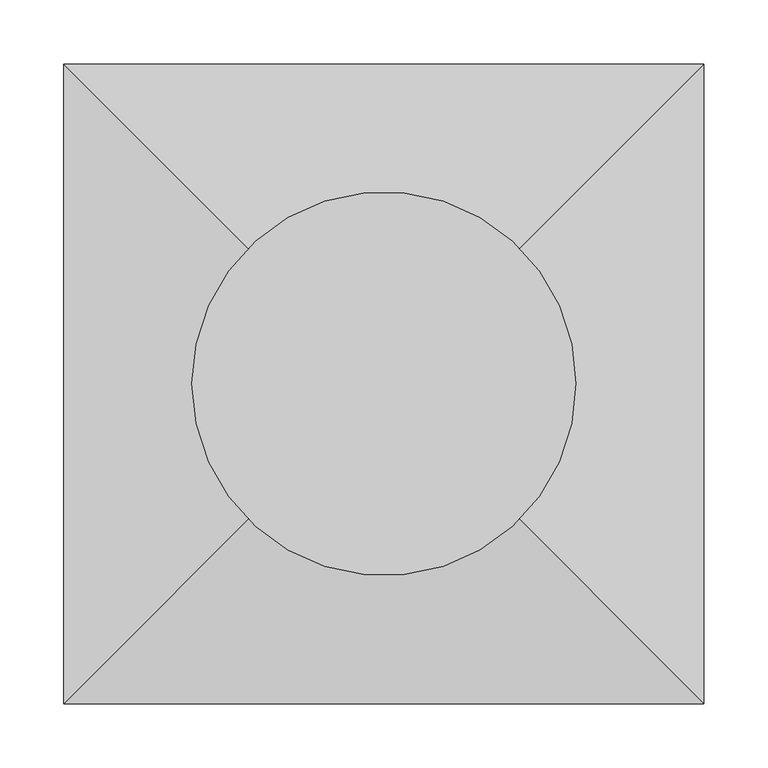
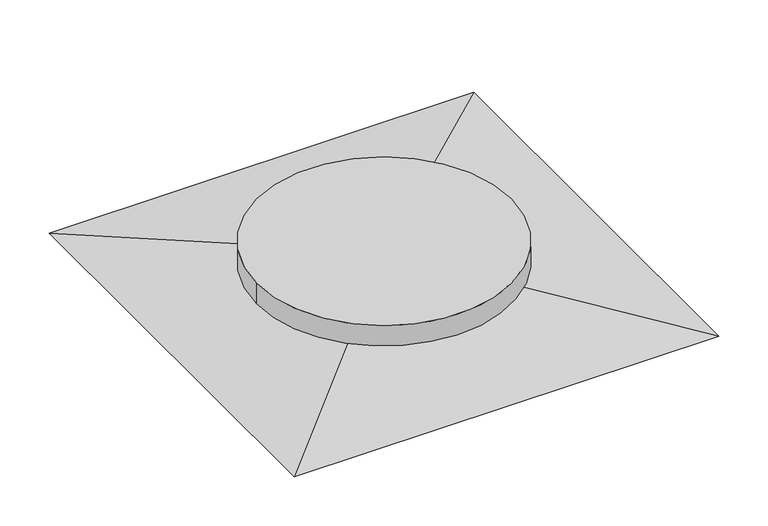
"""IFC4 building model written with IfcOpenShell, lengths in millimetres: air terminal geometry, M_送风散流器 - 矩形面圆颈 : 500x500 - 300 颈."""

from ifc_helpers import new_model, si_unit, point, frame, origin, origin_2d, place, context, project, spatial, circle_curve, trimmed, segment, composite_curve, outline, extrude, faceted_brep, source, transform, mapped, element, save


def air_terminal_962bfd54(model_context):
    return source(origin(), model_context, "Body", "SolidModel", [
        extrude(outline(composite_curve([segment(trimmed(circle_curve(origin_2d(), 150.0), [point((-150.0, 0.0))], [point((150.0, 0.0))], False, "CARTESIAN"), True, "CONTINUOUS"), segment(trimmed(circle_curve(origin_2d(), 150.0), [point((150.0, 0.0))], [point((-150.0, 0.0))], False, "CARTESIAN"), True, "CONTINUOUS")], self_intersect=False)), frame((0.0, 0.0, 28.575), z_axis=(0.0, 0.0, 1.0), x_axis=(1.0, 0.0, 0.0)), (0.0, 0.0, 1.0), 25.4),
        faceted_brep([(75.0, 75.0, 28.575), (-75.0, 75.0, 28.575), (-75.0, -75.0, 28.575), (75.0, -75.0, 28.575), (250.0, 250.0, 0.0), (250.0, -250.0, 0.0), (-250.0, -250.0, 0.0), (-250.0, 250.0, 0.0)], [[[0, 1, 2, 3]], [[4, 5, 6, 7]], [[4, 7, 1, 0]], [[7, 6, 2, 1]], [[6, 5, 3, 2]], [[5, 4, 0, 3]]]),
    ])


if __name__ == "__main__":
    model = new_model("IFC4")
    model_context = context("Model", 3, world=origin())
    ifc_project = project(units=[si_unit("LENGTHUNIT", "METRE", prefix="MILLI")], contexts=[model_context])
    site = spatial("IfcSite", under=ifc_project)
    building = spatial("IfcBuilding", under=site)
    placement = place(None, origin())
    air_terminal_shape = air_terminal_962bfd54(model_context)
    element("IfcAirTerminal", 1, ObjectType="M_送风散流器 - 矩形面圆颈 : 500x500 - 300 颈", at=placement, inside=building, context=model_context, shape_type="MappedRepresentation", body=[
        mapped(air_terminal_shape, transform((0.0, 0.0, 0.0), x_axis=(1.0, 0.0, 0.0), y_axis=(0.0, 1.0, 0.0), z_axis=(0.0, 0.0, 1.0))),
    ])
    save(model, "model.ifc")
